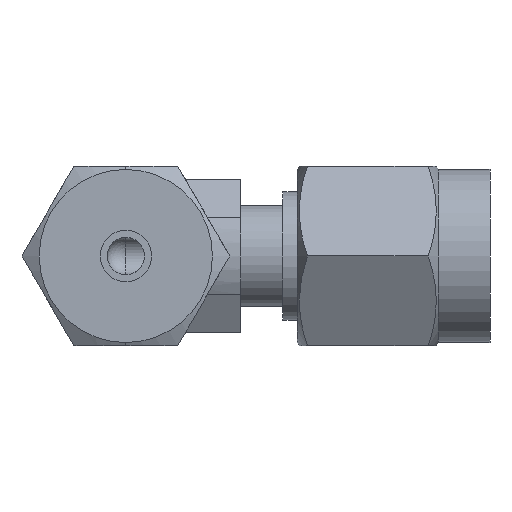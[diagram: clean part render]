
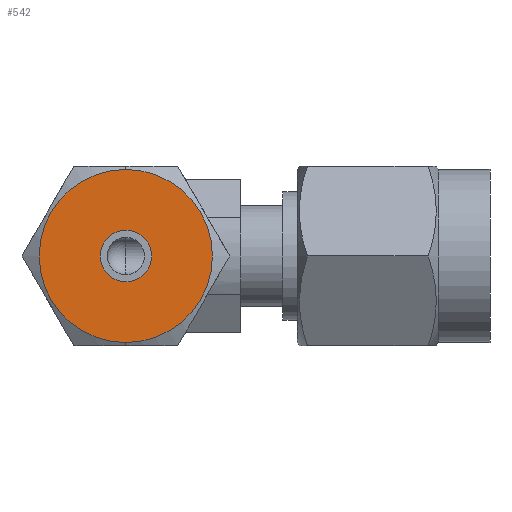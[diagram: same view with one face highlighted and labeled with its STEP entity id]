
A CAD part, front view. The second image highlights one B-rep face of the part: STEP entity #542.
In plain terms, the highlighted planar face has unit normal (0, -1, 0).
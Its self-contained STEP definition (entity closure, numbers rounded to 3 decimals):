
#21 = VERTEX_POINT ( 'NONE', #770 ) ;
#22 = EDGE_CURVE ( 'NONE', #23, #21, #769, .T. ) ;
#23 = VERTEX_POINT ( 'NONE', #764 ) ;
#147 = VERTEX_POINT ( 'NONE', #1120 ) ;
#149 = EDGE_CURVE ( 'NONE', #147, #150, #1135, .T. ) ;
#150 = VERTEX_POINT ( 'NONE', #1070 ) ;
#542 = ADVANCED_FACE ( 'NONE', ( #1857, #1856 ), #1855, .T. ) ;
#544 = EDGE_LOOP ( 'NONE', ( #545, #547 ) ) ;
#545 = ORIENTED_EDGE ( 'NONE', *, *, #546, .F. ) ;
#546 = EDGE_CURVE ( 'NONE', #150, #147, #1854, .T. ) ;
#547 = ORIENTED_EDGE ( 'NONE', *, *, #149, .F. ) ;
#548 = EDGE_LOOP ( 'NONE', ( #549, #550 ) ) ;
#549 = ORIENTED_EDGE ( 'NONE', *, *, #22, .T. ) ;
#550 = ORIENTED_EDGE ( 'NONE', *, *, #551, .T. ) ;
#551 = EDGE_CURVE ( 'NONE', #21, #23, #1919, .T. ) ;
#764 = CARTESIAN_POINT ( 'NONE',  ( 0., -22.5, -5.35 ) ) ;
#765 = DIRECTION ( 'NONE',  ( 0., 0., -1. ) ) ;
#766 = DIRECTION ( 'NONE',  ( 0., -1., 0. ) ) ;
#767 = CARTESIAN_POINT ( 'NONE',  ( 0., -22.5, 0. ) ) ;
#768 = AXIS2_PLACEMENT_3D ( 'NONE', #767, #766, #765 ) ;
#769 = CIRCLE ( 'NONE', #768, 5.35 ) ;
#770 = CARTESIAN_POINT ( 'NONE',  ( 0., -22.5, 5.35 ) ) ;
#1070 = CARTESIAN_POINT ( 'NONE',  ( 0., -22.5, -1.59 ) ) ;
#1071 = DIRECTION ( 'NONE',  ( 0., 0., -1. ) ) ;
#1091 = DIRECTION ( 'NONE',  ( 0., -1., 0. ) ) ;
#1114 = CARTESIAN_POINT ( 'NONE',  ( 0., -22.5, 0. ) ) ;
#1120 = CARTESIAN_POINT ( 'NONE',  ( 0., -22.5, 1.59 ) ) ;
#1129 = AXIS2_PLACEMENT_3D ( 'NONE', #1114, #1091, #1071 ) ;
#1135 = CIRCLE ( 'NONE', #1129, 1.59 ) ;
#1848 = CARTESIAN_POINT ( 'NONE',  ( 0., -22.5, 0. ) ) ;
#1849 = AXIS2_PLACEMENT_3D ( 'NONE', #1848, #1921, #1920 ) ;
#1850 = DIRECTION ( 'NONE',  ( 0., 0., -1. ) ) ;
#1851 = DIRECTION ( 'NONE',  ( 0., -1., 0. ) ) ;
#1852 = CARTESIAN_POINT ( 'NONE',  ( 6.414, -22.5, 0. ) ) ;
#1853 = AXIS2_PLACEMENT_3D ( 'NONE', #1852, #1851, #1850 ) ;
#1854 = CIRCLE ( 'NONE', #1849, 1.59 ) ;
#1855 = PLANE ( 'NONE',  #1853 ) ;
#1856 = FACE_OUTER_BOUND ( 'NONE', #548, .T. ) ;
#1857 = FACE_BOUND ( 'NONE', #544, .T. ) ;
#1915 = DIRECTION ( 'NONE',  ( 0., 0., -1. ) ) ;
#1916 = DIRECTION ( 'NONE',  ( 0., -1., 0. ) ) ;
#1917 = CARTESIAN_POINT ( 'NONE',  ( 0., -22.5, 0. ) ) ;
#1918 = AXIS2_PLACEMENT_3D ( 'NONE', #1917, #1916, #1915 ) ;
#1919 = CIRCLE ( 'NONE', #1918, 5.35 ) ;
#1920 = DIRECTION ( 'NONE',  ( 0., 0., -1. ) ) ;
#1921 = DIRECTION ( 'NONE',  ( 0., -1., 0. ) ) ;
